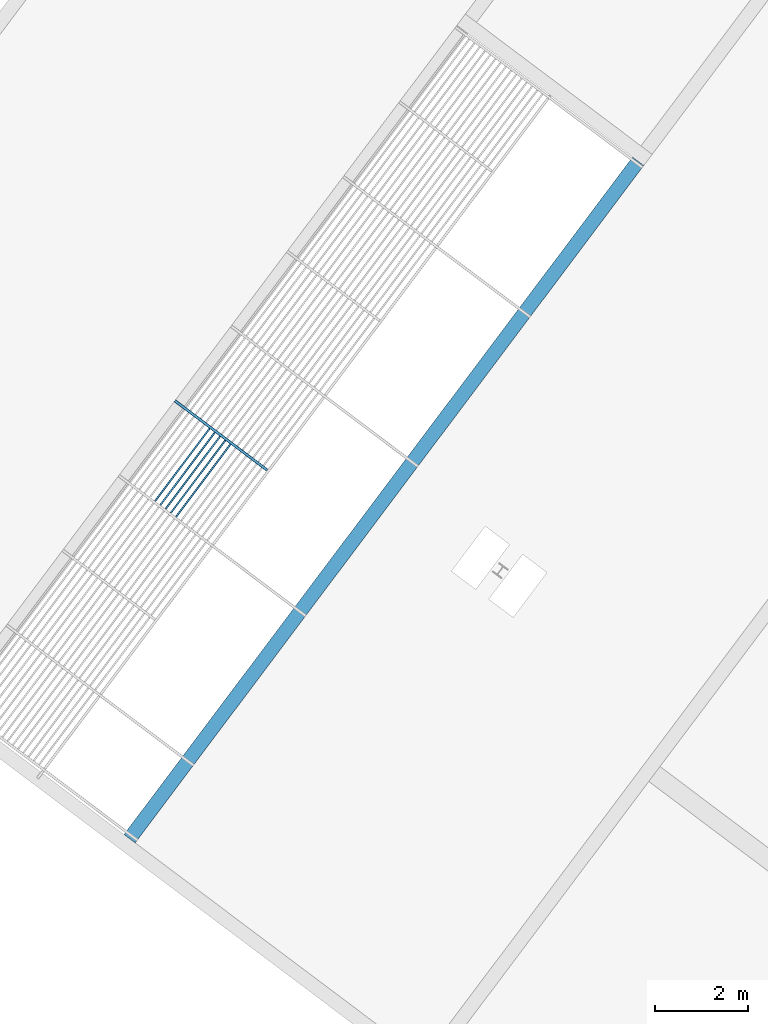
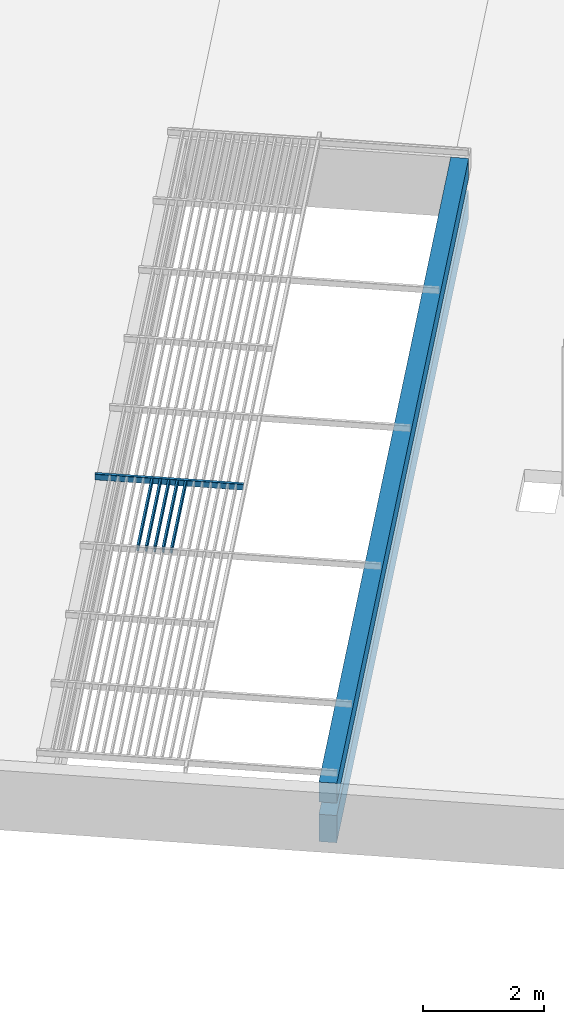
# One storey, part 24 of 95: 7 beams.
"""IFC2X3 building model written with IfcOpenShell, lengths in metres."""

from ifc_helpers import new_model, entity, si_unit, converted_unit, derived_unit, direction, frame, frame_2d, origin, place, context, subcontext, project, spatial, polyline, circle_curve, parameter, trimmed, segment, composite_curve, rectangle, outline, extrude, source, transform, mapped, material, type_object, type_shapes, element, save


model = new_model("IFC2X3")

# Units and contexts
model_context = context("Model", 3, precision=1e-05, world=origin(), true_north=direction((6.123031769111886e-17, 1.0)))
body_context = subcontext(model_context, "Body", "Model", "MODEL_VIEW")
ifc_project = project(units=[si_unit("LENGTHUNIT", "METRE"), si_unit("AREAUNIT", "SQUARE_METRE"), si_unit("VOLUMEUNIT", "CUBIC_METRE"), converted_unit("PLANEANGLEUNIT", "DEGREE", entity("IfcRatioMeasure", 0.017453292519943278), si_unit("PLANEANGLEUNIT", "RADIAN"), dimensions=[0, 0, 0, 0, 0, 0, 0]), si_unit("MASSUNIT", "GRAM", prefix="KILO"), derived_unit("MASSDENSITYUNIT", [(si_unit("MASSUNIT", "GRAM", prefix="KILO"), 1), (si_unit("LENGTHUNIT", "METRE"), -3)]), derived_unit("IONCONCENTRATIONUNIT", [(si_unit("MASSUNIT", "GRAM", prefix="KILO"), 1), (si_unit("LENGTHUNIT", "METRE"), -3)]), derived_unit("MOMENTOFINERTIAUNIT", [(si_unit("LENGTHUNIT", "METRE"), 4)]), si_unit("TIMEUNIT", "SECOND"), si_unit("FREQUENCYUNIT", "HERTZ"), si_unit("THERMODYNAMICTEMPERATUREUNIT", "DEGREE_CELSIUS"), derived_unit("THERMALTRANSMITTANCEUNIT", [(si_unit("MASSUNIT", "GRAM", prefix="KILO"), 1), (si_unit("THERMODYNAMICTEMPERATUREUNIT", "KELVIN"), -1), (si_unit("TIMEUNIT", "SECOND"), -3)]), derived_unit("THERMALCONDUCTANCEUNIT", [(si_unit("MASSUNIT", "GRAM", prefix="KILO"), 1), (si_unit("THERMODYNAMICTEMPERATUREUNIT", "KELVIN"), -1), (si_unit("TIMEUNIT", "SECOND"), -3), (si_unit("LENGTHUNIT", "METRE"), 1)]), derived_unit("VOLUMETRICFLOWRATEUNIT", [(si_unit("LENGTHUNIT", "METRE"), 3), (si_unit("TIMEUNIT", "SECOND"), -1)]), derived_unit("MASSFLOWRATEUNIT", [(si_unit("MASSUNIT", "GRAM", prefix="KILO"), 1), (si_unit("TIMEUNIT", "SECOND"), -1)]), derived_unit("ROTATIONALFREQUENCYUNIT", [(si_unit("TIMEUNIT", "SECOND"), -1)]), si_unit("ELECTRICCURRENTUNIT", "AMPERE"), si_unit("ELECTRICVOLTAGEUNIT", "VOLT"), si_unit("POWERUNIT", "WATT"), si_unit("FORCEUNIT", "NEWTON", prefix="KILO"), si_unit("ILLUMINANCEUNIT", "LUX"), si_unit("LUMINOUSFLUXUNIT", "LUMEN"), si_unit("LUMINOUSINTENSITYUNIT", "CANDELA"), derived_unit("USERDEFINED", [(si_unit("MASSUNIT", "GRAM", prefix="KILO"), -1), (si_unit("LENGTHUNIT", "METRE"), -2), (si_unit("TIMEUNIT", "SECOND"), 3), (si_unit("LUMINOUSFLUXUNIT", "LUMEN"), 1)]), derived_unit("USERDEFINED", [(si_unit("MASSUNIT", "GRAM", prefix="KILO"), 1), (si_unit("TIMEUNIT", "SECOND"), -3), (si_unit("LENGTHUNIT", "METRE"), 3), (si_unit("ELECTRICCURRENTUNIT", "AMPERE"), -2)]), derived_unit("SOUNDPOWERUNIT", [(si_unit("MASSUNIT", "GRAM", prefix="KILO"), 1), (si_unit("TIMEUNIT", "SECOND"), -3), (si_unit("LENGTHUNIT", "METRE"), 2)]), derived_unit("SOUNDPRESSUREUNIT", [(si_unit("MASSUNIT", "GRAM", prefix="KILO"), 1), (si_unit("LENGTHUNIT", "METRE"), -1), (si_unit("TIMEUNIT", "SECOND"), -2)]), derived_unit("LINEARVELOCITYUNIT", [(si_unit("LENGTHUNIT", "METRE"), 1), (si_unit("TIMEUNIT", "SECOND"), -1)]), si_unit("PRESSUREUNIT", "PASCAL"), derived_unit("USERDEFINED", [(si_unit("MASSUNIT", "GRAM", prefix="KILO"), 1), (si_unit("LENGTHUNIT", "METRE"), -2), (si_unit("TIMEUNIT", "SECOND"), -2)]), derived_unit("LINEARFORCEUNIT", [(si_unit("MASSUNIT", "GRAM", prefix="KILO"), 1), (si_unit("TIMEUNIT", "SECOND"), -2)]), derived_unit("PLANARFORCEUNIT", [(si_unit("MASSUNIT", "GRAM", prefix="KILO"), 1), (si_unit("LENGTHUNIT", "METRE"), -1), (si_unit("TIMEUNIT", "SECOND"), -2)]), derived_unit("SPECIFICHEATCAPACITYUNIT", [(si_unit("THERMODYNAMICTEMPERATUREUNIT", "KELVIN"), -1), (si_unit("LENGTHUNIT", "METRE"), 2), (si_unit("TIMEUNIT", "SECOND"), -2)]), derived_unit("HEATINGVALUEUNIT", [(si_unit("LENGTHUNIT", "METRE"), 2), (si_unit("TIMEUNIT", "SECOND"), -2)]), derived_unit("VAPORPERMEABILITYUNIT", [(si_unit("LENGTHUNIT", "METRE"), -1), (si_unit("TIMEUNIT", "SECOND"), 1)]), derived_unit("DYNAMICVISCOSITYUNIT", [(si_unit("MASSUNIT", "GRAM", prefix="KILO"), 1), (si_unit("TIMEUNIT", "SECOND"), -1), (si_unit("LENGTHUNIT", "METRE"), -1)]), derived_unit("THERMALEXPANSIONCOEFFICIENTUNIT", [(si_unit("THERMODYNAMICTEMPERATUREUNIT", "KELVIN"), -1)]), derived_unit("MODULUSOFELASTICITYUNIT", [(si_unit("MASSUNIT", "GRAM", prefix="KILO"), 1), (si_unit("LENGTHUNIT", "METRE"), -1), (si_unit("TIMEUNIT", "SECOND"), -2)]), derived_unit("ISOTHERMALMOISTURECAPACITYUNIT", [(si_unit("LENGTHUNIT", "METRE"), 3), (si_unit("MASSUNIT", "GRAM", prefix="KILO"), -1)]), derived_unit("MOISTUREDIFFUSIVITYUNIT", [(si_unit("TIMEUNIT", "SECOND"), -1), (si_unit("LENGTHUNIT", "METRE"), 2)])], contexts=[model_context])

# Site, building, storey
site_placement = place(None, origin())
site = spatial("IfcSite", under=ifc_project, at=site_placement, Name="Default", CompositionType="ELEMENT")
building_placement = place(site_placement, frame((0.0, 0.0, 235.0), z_axis=(0.0, 0.0, 1.0), x_axis=(-0.7996477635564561, 0.6004693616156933, 0.0)))
building = spatial("IfcBuilding", under=site, at=building_placement, CompositionType="ELEMENT")
storey_placement = place(building_placement, frame((0.0, 0.0, 3.400000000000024)))
storey = spatial("IfcBuildingStorey", under=building, at=storey_placement, Name="PC- Coberta STR", CompositionType="ELEMENT", Elevation=3.400000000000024)

# Beams
ifc_material_1 = material(Name="_Formigó- T1- STR")
beam_type_1 = type_object("IfcBeamType", Name="STR- V- Formigó- Rectangular- T1:30x120 cm", PredefinedType="BEAM", material=ifc_material_1)
shared_shape = source(origin(), body_context, "Body", "SweptSolid", [
    extrude(rectangle(XDim=0.39999999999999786, YDim=0.30000000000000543, at=frame_2d((2.1649348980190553e-15, 0.0), x_axis=(0.0, 1.0))), frame((23.795147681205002, -18.340191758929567, 3.600000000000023), z_axis=(0.0, -1.0, 0.0), x_axis=(-1.0, 0.0, 0.0)), (0.0, 0.0, 1.0), 18.1249999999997),
    extrude(rectangle(XDim=0.5500000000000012, YDim=0.30000000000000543, at=frame_2d((2.1649348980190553e-15, -2.7755575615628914e-16), x_axis=(0.0, 1.0))), frame((23.795147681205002, -18.340191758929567, 2.875000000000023), z_axis=(0.0, -1.0, 0.0), x_axis=(-1.0, 0.0, 0.0)), (0.0, 0.0, 1.0), 18.1249999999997),
])
type_shapes(beam_type_1, [shared_shape])
beam_1_placement = place(storey_placement, frame((0.0, 0.0, -3.400000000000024)))
element("IfcBeam", 1, at=beam_1_placement, inside=storey, type_object=beam_type_1, material=ifc_material_1, Name="STR- V- Formigó- Rectangular- T1:30x120 cm", ObjectType="STR- V- Formigó- Rectangular- T1:30x120 cm", context=body_context, shape_type="MappedRepresentation", body=[
    mapped(shared_shape, transform((0.0, 0.0, 0.0), scale=1.0)),
])
ifc_material_2 = material(Name="_Acer- STR")
beam_type_2 = type_object("IfcBeamType", Name="STR- V- Acer- RHS- Rectangular- T1:120x60RHS", PredefinedType="NOTDEFINED")
beam_2_placement = place(storey_placement, frame((26.175147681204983, -26.446787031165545, 0.49840472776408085), z_axis=(0.0, 0.0, 1.0), x_axis=(-1.0, 0.0, 0.0)))
element("IfcBeam", 2, at=beam_2_placement, inside=storey, type_object=beam_type_2, material=ifc_material_2, Name="STR- V- Acer- RHS- Rectangular- T1:120x60RHS", ObjectType="STR- V- Acer- RHS- Rectangular- T1:120x60RHS", context=body_context, shape_type="SweptSolid", body=[
    extrude(outline(composite_curve([segment(trimmed(circle_curve(frame_2d((-0.021999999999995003, -0.05199999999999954), x_axis=(1.0, 0.0)), 0.008), [parameter(180.0000000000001)], [parameter(269.99999999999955)], True, "PARAMETER"), True, "CONTINUOUS"), segment(polyline([(-0.021999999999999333, -0.05999999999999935), (0.021999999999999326, -0.05999999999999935)]), True, "CONTINUOUS"), segment(trimmed(circle_curve(frame_2d((0.022000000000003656, -0.05199999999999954), x_axis=(1.0, 0.0)), 0.008), [parameter(269.99999999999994)], [parameter(5.088887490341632e-14)], True, "PARAMETER"), True, "CONTINUOUS"), segment(polyline([(0.030000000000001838, -0.05199999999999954), (0.030000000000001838, 0.052000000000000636)]), True, "CONTINUOUS"), segment(trimmed(circle_curve(frame_2d((0.022000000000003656, 0.052000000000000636), x_axis=(1.0, 0.0)), 0.008), [parameter(359.99999999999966)], [parameter(89.99999999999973)], True, "PARAMETER"), True, "CONTINUOUS"), segment(polyline([(0.021999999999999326, 0.06000000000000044), (-0.021999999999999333, 0.06000000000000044)]), True, "CONTINUOUS"), segment(trimmed(circle_curve(frame_2d((-0.021999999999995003, 0.052000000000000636), x_axis=(1.0, 0.0)), 0.008), [parameter(90.00000000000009)], [parameter(180.00000000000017)], True, "PARAMETER"), True, "CONTINUOUS"), segment(polyline([(-0.029999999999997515, 0.052000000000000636), (-0.029999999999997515, -0.05199999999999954)]), True, "CONTINUOUS")], self_intersect=False), holes=[composite_curve([segment(polyline([(0.021999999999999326, -0.056000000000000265), (-0.021999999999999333, -0.056000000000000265)]), True, "CONTINUOUS"), segment(trimmed(circle_curve(frame_2d((-0.021999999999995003, -0.05200000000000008), x_axis=(1.0, 0.0)), 0.004), [parameter(179.99999999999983)], [parameter(269.9999999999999)], True, "PARAMETER"), False, "CONTINUOUS"), segment(polyline([(-0.025999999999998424, -0.05200000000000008), (-0.025999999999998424, 0.051999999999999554)]), True, "CONTINUOUS"), segment(trimmed(circle_curve(frame_2d((-0.021999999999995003, 0.051999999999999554), x_axis=(1.0, 0.0)), 0.004), [parameter(90.00000000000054)], [parameter(180.00000000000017)], True, "PARAMETER"), False, "CONTINUOUS"), segment(polyline([(-0.021999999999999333, 0.055999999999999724), (0.021999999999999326, 0.055999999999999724)]), True, "CONTINUOUS"), segment(trimmed(circle_curve(frame_2d((0.022000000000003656, 0.051999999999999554), x_axis=(1.0, 0.0)), 0.004), [parameter(0.0)], [parameter(90.00000000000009)], True, "PARAMETER"), False, "CONTINUOUS"), segment(polyline([(0.02599999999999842, 0.051999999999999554), (0.02599999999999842, -0.05200000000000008)]), True, "CONTINUOUS"), segment(trimmed(circle_curve(frame_2d((0.022000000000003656, -0.05200000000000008), x_axis=(1.0, 0.0)), 0.004), [parameter(270.00000000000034)], [parameter(3.5622212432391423e-13)], True, "PARAMETER"), False, "CONTINUOUS")], self_intersect=False)]), frame((-2.470000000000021, -0.03159527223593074, 0.061595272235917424), z_axis=(1.0, 0.0, 0.0), x_axis=(0.0, -1.0, 0.0)), (0.0, 0.0, 1.0), 2.4700000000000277),
])
beam_type_3 = type_object("IfcBeamType", Name="STR- V- Acer- RHS- Rectangular- T1:120x40RHS -", PredefinedType="NOTDEFINED")
beam_3_placement = place(storey_placement, frame((27.673552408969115, -26.385191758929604, 0.49840472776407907), z_axis=(0.0, 0.0, 1.0), x_axis=(0.0, -1.0, 0.0)))
element("IfcBeam", 3, at=beam_3_placement, inside=storey, type_object=beam_type_3, material=ifc_material_2, Name="STR- V- Acer- RHS- Rectangular- T1:120x40RHS -", ObjectType="STR- V- Acer- RHS- Rectangular- T1:120x40RHS -", context=body_context, shape_type="SweptSolid", body=[
    extrude(outline(composite_curve([segment(trimmed(circle_curve(frame_2d((-0.013999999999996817, -0.05400000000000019), x_axis=(1.0, 0.0)), 0.006), [parameter(180.0000000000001)], [parameter(269.99999999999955)], True, "PARAMETER"), True, "CONTINUOUS"), segment(polyline([(-0.014000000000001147, -0.06000000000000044), (0.01400000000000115, -0.06000000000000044)]), True, "CONTINUOUS"), segment(trimmed(circle_curve(frame_2d((0.01400000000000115, -0.05400000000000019), x_axis=(1.0, 0.0)), 0.006), [parameter(269.99999999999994)], [parameter(1.0177774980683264e-13)], True, "PARAMETER"), True, "CONTINUOUS"), segment(polyline([(0.019999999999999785, -0.05400000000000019), (0.019999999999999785, 0.05399999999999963)]), True, "CONTINUOUS"), segment(trimmed(circle_curve(frame_2d((0.01400000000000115, 0.05399999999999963), x_axis=(1.0, 0.0)), 0.006), [parameter(359.9999999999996)], [parameter(89.99999999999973)], True, "PARAMETER"), True, "CONTINUOUS"), segment(polyline([(0.01400000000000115, 0.05999999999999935), (-0.014000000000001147, 0.05999999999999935)]), True, "CONTINUOUS"), segment(trimmed(circle_curve(frame_2d((-0.013999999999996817, 0.05399999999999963), x_axis=(1.0, 0.0)), 0.006), [parameter(90.00000000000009)], [parameter(180.00000000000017)], True, "PARAMETER"), True, "CONTINUOUS"), segment(polyline([(-0.019999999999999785, 0.05399999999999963), (-0.019999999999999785, -0.05400000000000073)]), True, "CONTINUOUS")], self_intersect=False), holes=[composite_curve([segment(polyline([(0.01400000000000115, -0.05700000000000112), (-0.014000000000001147, -0.05700000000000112)]), True, "CONTINUOUS"), segment(trimmed(circle_curve(frame_2d((-0.013999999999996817, -0.05400000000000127), x_axis=(1.0, 0.0)), 0.003), [parameter(179.99999999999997)], [parameter(269.9999999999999)], True, "PARAMETER"), False, "CONTINUOUS"), segment(polyline([(-0.01700000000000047, -0.05400000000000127), (-0.01700000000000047, 0.05399999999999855)]), True, "CONTINUOUS"), segment(trimmed(circle_curve(frame_2d((-0.013999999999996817, 0.05399999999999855), x_axis=(1.0, 0.0)), 0.003), [parameter(90.00000000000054)], [parameter(180.0000000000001)], True, "PARAMETER"), False, "CONTINUOUS"), segment(polyline([(-0.014000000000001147, 0.05699999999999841), (0.01400000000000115, 0.05699999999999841)]), True, "CONTINUOUS"), segment(trimmed(circle_curve(frame_2d((0.01400000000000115, 0.05399999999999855), x_axis=(1.0, 0.0)), 0.003), [parameter(0.0)], [parameter(90.00000000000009)], True, "PARAMETER"), False, "CONTINUOUS"), segment(polyline([(0.017000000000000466, 0.05399999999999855), (0.017000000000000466, -0.05400000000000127)]), True, "CONTINUOUS"), segment(trimmed(circle_curve(frame_2d((0.01400000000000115, -0.05400000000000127), x_axis=(1.0, 0.0)), 0.003), [parameter(270.00000000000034)], [parameter(3.053332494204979e-13)], True, "PARAMETER"), False, "CONTINUOUS")], self_intersect=False)]), frame((-1.9399999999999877, 0.021595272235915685, 0.06159527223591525), z_axis=(1.0, 0.0, 0.0), x_axis=(0.0, -1.0, 0.0)), (0.0, 0.0, 1.0), 1.9399999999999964),
])
beam_4_placement = place(storey_placement, frame((27.533552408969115, -26.385191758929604, 0.49840472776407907), z_axis=(0.0, 0.0, 1.0), x_axis=(0.0, -1.0, 0.0)))
element("IfcBeam", 4, at=beam_4_placement, inside=storey, type_object=beam_type_3, material=ifc_material_2, Name="STR- V- Acer- RHS- Rectangular- T1:120x40RHS -", ObjectType="STR- V- Acer- RHS- Rectangular- T1:120x40RHS -", context=body_context, shape_type="SweptSolid", body=[
    extrude(outline(composite_curve([segment(trimmed(circle_curve(frame_2d((-0.013999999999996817, -0.05400000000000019), x_axis=(1.0, 0.0)), 0.006), [parameter(180.0000000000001)], [parameter(269.99999999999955)], True, "PARAMETER"), True, "CONTINUOUS"), segment(polyline([(-0.014000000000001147, -0.06000000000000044), (0.01400000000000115, -0.06000000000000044)]), True, "CONTINUOUS"), segment(trimmed(circle_curve(frame_2d((0.01400000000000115, -0.05400000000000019), x_axis=(1.0, 0.0)), 0.006), [parameter(269.99999999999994)], [parameter(1.0177774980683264e-13)], True, "PARAMETER"), True, "CONTINUOUS"), segment(polyline([(0.019999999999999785, -0.05400000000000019), (0.019999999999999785, 0.05399999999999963)]), True, "CONTINUOUS"), segment(trimmed(circle_curve(frame_2d((0.01400000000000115, 0.05399999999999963), x_axis=(1.0, 0.0)), 0.006), [parameter(359.9999999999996)], [parameter(89.99999999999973)], True, "PARAMETER"), True, "CONTINUOUS"), segment(polyline([(0.01400000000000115, 0.05999999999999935), (-0.014000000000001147, 0.05999999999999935)]), True, "CONTINUOUS"), segment(trimmed(circle_curve(frame_2d((-0.013999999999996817, 0.05399999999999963), x_axis=(1.0, 0.0)), 0.006), [parameter(90.00000000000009)], [parameter(180.00000000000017)], True, "PARAMETER"), True, "CONTINUOUS"), segment(polyline([(-0.019999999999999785, 0.05399999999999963), (-0.019999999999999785, -0.05400000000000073)]), True, "CONTINUOUS")], self_intersect=False), holes=[composite_curve([segment(polyline([(0.01400000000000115, -0.05700000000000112), (-0.014000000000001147, -0.05700000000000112)]), True, "CONTINUOUS"), segment(trimmed(circle_curve(frame_2d((-0.013999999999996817, -0.05400000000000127), x_axis=(1.0, 0.0)), 0.003), [parameter(179.99999999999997)], [parameter(269.9999999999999)], True, "PARAMETER"), False, "CONTINUOUS"), segment(polyline([(-0.01700000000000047, -0.05400000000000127), (-0.01700000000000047, 0.05399999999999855)]), True, "CONTINUOUS"), segment(trimmed(circle_curve(frame_2d((-0.013999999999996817, 0.05399999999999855), x_axis=(1.0, 0.0)), 0.003), [parameter(90.00000000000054)], [parameter(180.0000000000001)], True, "PARAMETER"), False, "CONTINUOUS"), segment(polyline([(-0.014000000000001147, 0.05699999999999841), (0.01400000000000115, 0.05699999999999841)]), True, "CONTINUOUS"), segment(trimmed(circle_curve(frame_2d((0.01400000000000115, 0.05399999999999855), x_axis=(1.0, 0.0)), 0.003), [parameter(0.0)], [parameter(90.00000000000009)], True, "PARAMETER"), False, "CONTINUOUS"), segment(polyline([(0.017000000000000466, 0.05399999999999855), (0.017000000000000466, -0.05400000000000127)]), True, "CONTINUOUS"), segment(trimmed(circle_curve(frame_2d((0.01400000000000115, -0.05400000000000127), x_axis=(1.0, 0.0)), 0.003), [parameter(270.00000000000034)], [parameter(3.053332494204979e-13)], True, "PARAMETER"), False, "CONTINUOUS")], self_intersect=False)]), frame((-1.9399999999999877, 0.021595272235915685, 0.06159527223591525), z_axis=(1.0, 0.0, 0.0), x_axis=(0.0, -1.0, 0.0)), (0.0, 0.0, 1.0), 1.9399999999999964),
])
beam_5_placement = place(storey_placement, frame((27.393552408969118, -26.385191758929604, 0.49840472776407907), z_axis=(0.0, 0.0, 1.0), x_axis=(0.0, -1.0, 0.0)))
element("IfcBeam", 5, at=beam_5_placement, inside=storey, type_object=beam_type_3, material=ifc_material_2, Name="STR- V- Acer- RHS- Rectangular- T1:120x40RHS -", ObjectType="STR- V- Acer- RHS- Rectangular- T1:120x40RHS -", context=body_context, shape_type="SweptSolid", body=[
    extrude(outline(composite_curve([segment(trimmed(circle_curve(frame_2d((-0.013999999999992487, -0.05400000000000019), x_axis=(1.0, 0.0)), 0.006), [parameter(180.0000000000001)], [parameter(269.99999999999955)], True, "PARAMETER"), True, "CONTINUOUS"), segment(polyline([(-0.013999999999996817, -0.06000000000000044), (0.01400000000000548, -0.06000000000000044)]), True, "CONTINUOUS"), segment(trimmed(circle_curve(frame_2d((0.01400000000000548, -0.05400000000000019), x_axis=(1.0, 0.0)), 0.006), [parameter(269.99999999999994)], [parameter(1.0177774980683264e-13)], True, "PARAMETER"), True, "CONTINUOUS"), segment(polyline([(0.020000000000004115, -0.05400000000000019), (0.020000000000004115, 0.05399999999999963)]), True, "CONTINUOUS"), segment(trimmed(circle_curve(frame_2d((0.01400000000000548, 0.05399999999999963), x_axis=(1.0, 0.0)), 0.006), [parameter(359.9999999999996)], [parameter(89.99999999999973)], True, "PARAMETER"), True, "CONTINUOUS"), segment(polyline([(0.01400000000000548, 0.05999999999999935), (-0.013999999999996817, 0.05999999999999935)]), True, "CONTINUOUS"), segment(trimmed(circle_curve(frame_2d((-0.013999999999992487, 0.05399999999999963), x_axis=(1.0, 0.0)), 0.006), [parameter(90.00000000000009)], [parameter(180.00000000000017)], True, "PARAMETER"), True, "CONTINUOUS"), segment(polyline([(-0.019999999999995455, 0.05399999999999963), (-0.019999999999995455, -0.05400000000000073)]), True, "CONTINUOUS")], self_intersect=False), holes=[composite_curve([segment(polyline([(0.01400000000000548, -0.05700000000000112), (-0.013999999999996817, -0.05700000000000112)]), True, "CONTINUOUS"), segment(trimmed(circle_curve(frame_2d((-0.013999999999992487, -0.05400000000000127), x_axis=(1.0, 0.0)), 0.003), [parameter(179.99999999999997)], [parameter(269.9999999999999)], True, "PARAMETER"), False, "CONTINUOUS"), segment(polyline([(-0.01699999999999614, -0.05400000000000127), (-0.01699999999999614, 0.05399999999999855)]), True, "CONTINUOUS"), segment(trimmed(circle_curve(frame_2d((-0.013999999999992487, 0.05399999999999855), x_axis=(1.0, 0.0)), 0.003), [parameter(90.00000000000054)], [parameter(180.0000000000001)], True, "PARAMETER"), False, "CONTINUOUS"), segment(polyline([(-0.013999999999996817, 0.05699999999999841), (0.01400000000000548, 0.05699999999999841)]), True, "CONTINUOUS"), segment(trimmed(circle_curve(frame_2d((0.01400000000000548, 0.05399999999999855), x_axis=(1.0, 0.0)), 0.003), [parameter(0.0)], [parameter(90.00000000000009)], True, "PARAMETER"), False, "CONTINUOUS"), segment(polyline([(0.017000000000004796, 0.05399999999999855), (0.017000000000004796, -0.05400000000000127)]), True, "CONTINUOUS"), segment(trimmed(circle_curve(frame_2d((0.01400000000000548, -0.05400000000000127), x_axis=(1.0, 0.0)), 0.003), [parameter(270.00000000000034)], [parameter(3.053332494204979e-13)], True, "PARAMETER"), False, "CONTINUOUS")], self_intersect=False)]), frame((-1.9399999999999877, 0.021595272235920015, 0.06159527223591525), z_axis=(1.0, 0.0, 0.0), x_axis=(0.0, -1.0, 0.0)), (0.0, 0.0, 1.0), 1.9399999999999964),
])
beam_6_placement = place(storey_placement, frame((27.25355240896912, -26.385191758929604, 0.49840472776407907), z_axis=(0.0, 0.0, 1.0), x_axis=(0.0, -1.0, 0.0)))
element("IfcBeam", 6, at=beam_6_placement, inside=storey, type_object=beam_type_3, material=ifc_material_2, Name="STR- V- Acer- RHS- Rectangular- T1:120x40RHS -", ObjectType="STR- V- Acer- RHS- Rectangular- T1:120x40RHS -", context=body_context, shape_type="SweptSolid", body=[
    extrude(outline(composite_curve([segment(trimmed(circle_curve(frame_2d((-0.013999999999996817, -0.05400000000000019), x_axis=(1.0, 0.0)), 0.006), [parameter(180.0000000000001)], [parameter(269.99999999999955)], True, "PARAMETER"), True, "CONTINUOUS"), segment(polyline([(-0.014000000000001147, -0.06000000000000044), (0.01400000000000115, -0.06000000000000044)]), True, "CONTINUOUS"), segment(trimmed(circle_curve(frame_2d((0.01400000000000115, -0.05400000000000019), x_axis=(1.0, 0.0)), 0.006), [parameter(269.99999999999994)], [parameter(1.0177774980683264e-13)], True, "PARAMETER"), True, "CONTINUOUS"), segment(polyline([(0.019999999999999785, -0.05400000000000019), (0.019999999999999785, 0.05399999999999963)]), True, "CONTINUOUS"), segment(trimmed(circle_curve(frame_2d((0.01400000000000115, 0.05399999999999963), x_axis=(1.0, 0.0)), 0.006), [parameter(359.9999999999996)], [parameter(89.99999999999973)], True, "PARAMETER"), True, "CONTINUOUS"), segment(polyline([(0.01400000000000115, 0.05999999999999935), (-0.014000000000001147, 0.05999999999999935)]), True, "CONTINUOUS"), segment(trimmed(circle_curve(frame_2d((-0.013999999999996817, 0.05399999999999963), x_axis=(1.0, 0.0)), 0.006), [parameter(90.00000000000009)], [parameter(180.00000000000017)], True, "PARAMETER"), True, "CONTINUOUS"), segment(polyline([(-0.019999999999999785, 0.05399999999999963), (-0.019999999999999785, -0.05400000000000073)]), True, "CONTINUOUS")], self_intersect=False), holes=[composite_curve([segment(polyline([(0.01400000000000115, -0.05700000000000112), (-0.014000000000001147, -0.05700000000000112)]), True, "CONTINUOUS"), segment(trimmed(circle_curve(frame_2d((-0.013999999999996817, -0.05400000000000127), x_axis=(1.0, 0.0)), 0.003), [parameter(179.99999999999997)], [parameter(269.9999999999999)], True, "PARAMETER"), False, "CONTINUOUS"), segment(polyline([(-0.01700000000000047, -0.05400000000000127), (-0.01700000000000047, 0.05399999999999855)]), True, "CONTINUOUS"), segment(trimmed(circle_curve(frame_2d((-0.013999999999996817, 0.05399999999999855), x_axis=(1.0, 0.0)), 0.003), [parameter(90.00000000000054)], [parameter(180.0000000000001)], True, "PARAMETER"), False, "CONTINUOUS"), segment(polyline([(-0.014000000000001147, 0.05699999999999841), (0.01400000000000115, 0.05699999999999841)]), True, "CONTINUOUS"), segment(trimmed(circle_curve(frame_2d((0.01400000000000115, 0.05399999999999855), x_axis=(1.0, 0.0)), 0.003), [parameter(0.0)], [parameter(90.00000000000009)], True, "PARAMETER"), False, "CONTINUOUS"), segment(polyline([(0.017000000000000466, 0.05399999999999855), (0.017000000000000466, -0.05400000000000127)]), True, "CONTINUOUS"), segment(trimmed(circle_curve(frame_2d((0.01400000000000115, -0.05400000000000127), x_axis=(1.0, 0.0)), 0.003), [parameter(270.00000000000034)], [parameter(3.053332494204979e-13)], True, "PARAMETER"), False, "CONTINUOUS")], self_intersect=False)]), frame((-1.9399999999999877, 0.021595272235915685, 0.06159527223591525), z_axis=(1.0, 0.0, 0.0), x_axis=(0.0, -1.0, 0.0)), (0.0, 0.0, 1.0), 1.9399999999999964),
])
beam_7_placement = place(storey_placement, frame((27.11355240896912, -26.385191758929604, 0.49840472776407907), z_axis=(0.0, 0.0, 1.0), x_axis=(0.0, -1.0, 0.0)))
element("IfcBeam", 7, at=beam_7_placement, inside=storey, type_object=beam_type_3, material=ifc_material_2, Name="STR- V- Acer- RHS- Rectangular- T1:120x40RHS -", ObjectType="STR- V- Acer- RHS- Rectangular- T1:120x40RHS -", context=body_context, shape_type="SweptSolid", body=[
    extrude(outline(composite_curve([segment(trimmed(circle_curve(frame_2d((-0.013999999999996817, -0.05400000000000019), x_axis=(1.0, 0.0)), 0.006), [parameter(180.0000000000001)], [parameter(269.99999999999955)], True, "PARAMETER"), True, "CONTINUOUS"), segment(polyline([(-0.014000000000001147, -0.06000000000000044), (0.01400000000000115, -0.06000000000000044)]), True, "CONTINUOUS"), segment(trimmed(circle_curve(frame_2d((0.01400000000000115, -0.05400000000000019), x_axis=(1.0, 0.0)), 0.006), [parameter(269.99999999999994)], [parameter(1.0177774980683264e-13)], True, "PARAMETER"), True, "CONTINUOUS"), segment(polyline([(0.019999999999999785, -0.05400000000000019), (0.019999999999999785, 0.05399999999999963)]), True, "CONTINUOUS"), segment(trimmed(circle_curve(frame_2d((0.01400000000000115, 0.05399999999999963), x_axis=(1.0, 0.0)), 0.006), [parameter(359.9999999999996)], [parameter(89.99999999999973)], True, "PARAMETER"), True, "CONTINUOUS"), segment(polyline([(0.01400000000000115, 0.05999999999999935), (-0.014000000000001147, 0.05999999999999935)]), True, "CONTINUOUS"), segment(trimmed(circle_curve(frame_2d((-0.013999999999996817, 0.05399999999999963), x_axis=(1.0, 0.0)), 0.006), [parameter(90.00000000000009)], [parameter(180.00000000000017)], True, "PARAMETER"), True, "CONTINUOUS"), segment(polyline([(-0.019999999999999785, 0.05399999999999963), (-0.019999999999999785, -0.05400000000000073)]), True, "CONTINUOUS")], self_intersect=False), holes=[composite_curve([segment(polyline([(0.01400000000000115, -0.05700000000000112), (-0.014000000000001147, -0.05700000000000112)]), True, "CONTINUOUS"), segment(trimmed(circle_curve(frame_2d((-0.013999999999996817, -0.05400000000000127), x_axis=(1.0, 0.0)), 0.003), [parameter(179.99999999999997)], [parameter(269.9999999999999)], True, "PARAMETER"), False, "CONTINUOUS"), segment(polyline([(-0.01700000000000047, -0.05400000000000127), (-0.01700000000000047, 0.05399999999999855)]), True, "CONTINUOUS"), segment(trimmed(circle_curve(frame_2d((-0.013999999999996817, 0.05399999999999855), x_axis=(1.0, 0.0)), 0.003), [parameter(90.00000000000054)], [parameter(180.0000000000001)], True, "PARAMETER"), False, "CONTINUOUS"), segment(polyline([(-0.014000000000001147, 0.05699999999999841), (0.01400000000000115, 0.05699999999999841)]), True, "CONTINUOUS"), segment(trimmed(circle_curve(frame_2d((0.01400000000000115, 0.05399999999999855), x_axis=(1.0, 0.0)), 0.003), [parameter(0.0)], [parameter(90.00000000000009)], True, "PARAMETER"), False, "CONTINUOUS"), segment(polyline([(0.017000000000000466, 0.05399999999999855), (0.017000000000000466, -0.05400000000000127)]), True, "CONTINUOUS"), segment(trimmed(circle_curve(frame_2d((0.01400000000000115, -0.05400000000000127), x_axis=(1.0, 0.0)), 0.003), [parameter(270.00000000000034)], [parameter(3.053332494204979e-13)], True, "PARAMETER"), False, "CONTINUOUS")], self_intersect=False)]), frame((-1.9399999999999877, 0.021595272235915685, 0.06159527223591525), z_axis=(1.0, 0.0, 0.0), x_axis=(0.0, -1.0, 0.0)), (0.0, 0.0, 1.0), 1.9399999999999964),
])

save(model, "model.ifc")
